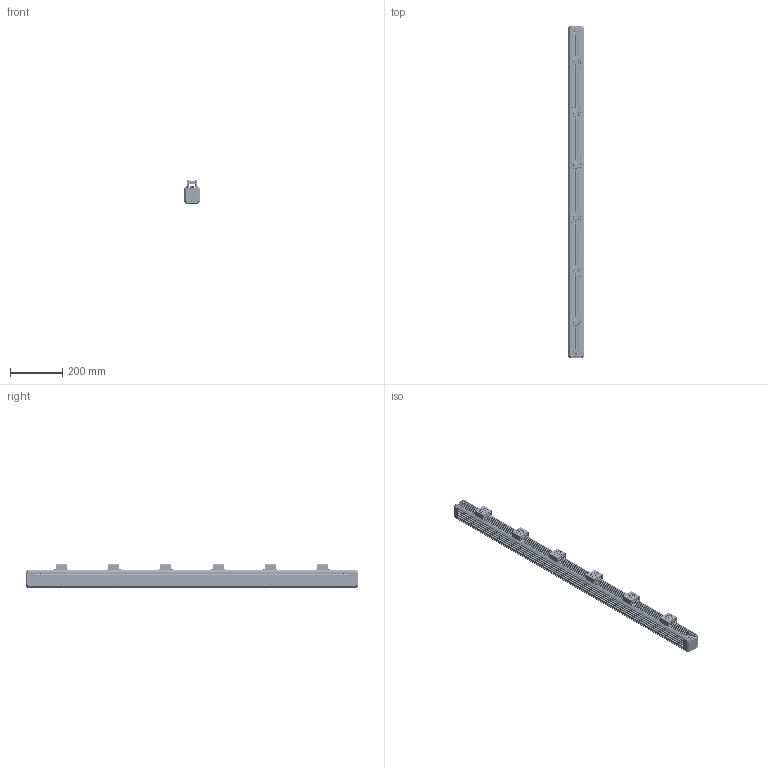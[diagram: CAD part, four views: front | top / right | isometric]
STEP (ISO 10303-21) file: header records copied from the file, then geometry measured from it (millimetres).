
FILE_DESCRIPTION((''),'2;1');
FILE_NAME('MV-LTDS-H-1200-W','2022-09-02T17:04:44',('huguozhe'),(''),'CREO PARAMETRIC BY PTC INC, 2020044','CREO PARAMETRIC BY PTC INC, 2020044','');
FILE_SCHEMA(('AUTOMOTIVE_DESIGN { 1 0 10303 214 1 1 1 1 }'));
Products named in the file (1): MV-LTDS-H-1200-W
Bounding box: 58 x 1270 x 90.6 mm (x, y, z)
Volume: 3438768.6 mm3; surface area: 1039188.2 mm2
Topology: 1 solids, 343 shells, 6759 faces, 17496 edges, 10860 vertices
Faces by surface type: plane 3281, cylinder 2300, cone 714, torus 372, bspline 92
Entity records: 247207 total; most frequent: CARTESIAN_POINT 50463, DIRECTION 36406, ORIENTED_EDGE 33304, EDGE_CURVE 17064, AXIS2_PLACEMENT_3D 13940, VERTEX_POINT 10860, VECTOR 8526, LINE 8526
